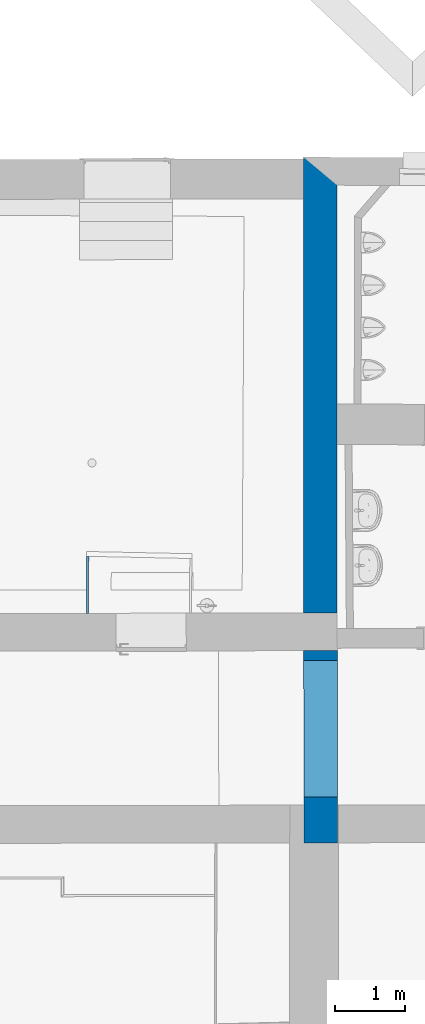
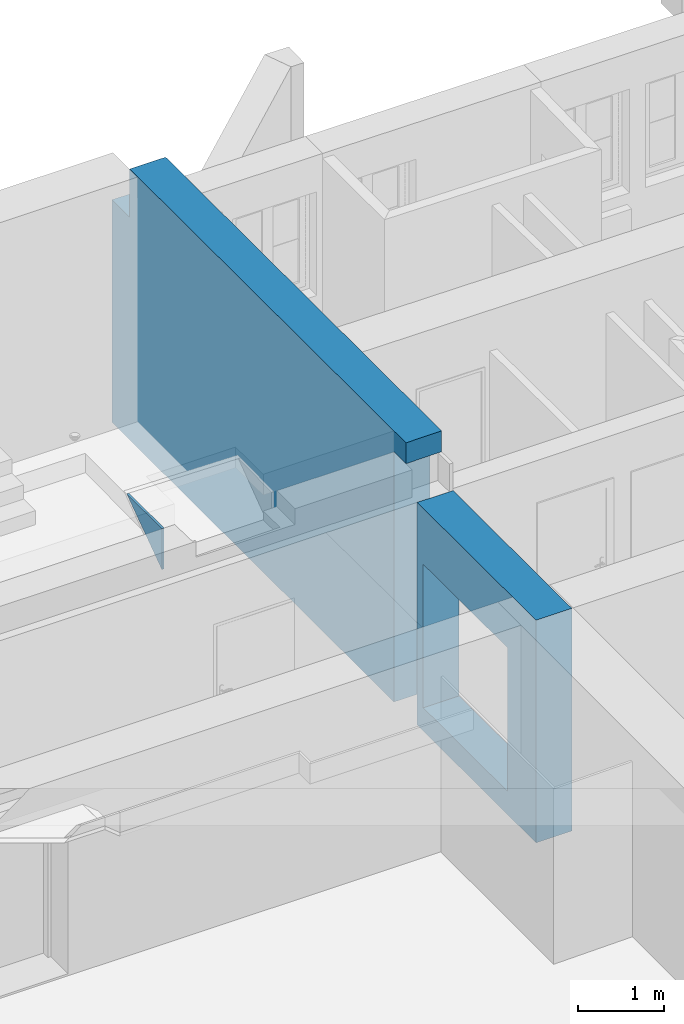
# One storey, part 98 of 196: 3 walls, 1 opening.
"""IFC2X3 building model written with IfcOpenShell, lengths in metres."""

from ifc_helpers import new_model, entity, si_unit, converted_unit, derived_unit, money_unit, direction, frame, origin_with_axes, origin_2d_with_axis, place, context, subcontext, project, spatial, polyline, rectangle, outline, extrude, boolean, faceted_brep, material, type_object, element, save


model = new_model("IFC2X3")

# Units and contexts
model_context = context("Model", 3, precision=1e-05, world=origin_with_axes(), true_north=direction((0.0, 1.0)))
body_context = subcontext(model_context, "Body", "Model", "MODEL_VIEW")
ifc_project = project(units=[si_unit("LENGTHUNIT", "METRE"), si_unit("AREAUNIT", "SQUARE_METRE"), si_unit("VOLUMEUNIT", "CUBIC_METRE"), converted_unit("PLANEANGLEUNIT", "DEGREE", entity("IfcPlaneAngleMeasure", 0.0174532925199), si_unit("PLANEANGLEUNIT", "RADIAN"), dimensions=[0, 0, 0, 0, 0, 0, 0]), money_unit("EUR"), converted_unit("TIMEUNIT", "Year", entity("IfcTimeMeasure", 31556926.0), si_unit("TIMEUNIT", "SECOND"), dimensions=[0, 0, 1, 0, 0, 0, 0]), si_unit("MASSUNIT", "GRAM", prefix="KILO"), si_unit("THERMODYNAMICTEMPERATUREUNIT", "DEGREE_CELSIUS"), si_unit("LUMINOUSINTENSITYUNIT", "LUMEN"), si_unit("ENERGYUNIT", "JOULE", prefix="MEGA"), derived_unit("THERMALCONDUCTANCEUNIT", [(si_unit("POWERUNIT", "WATT"), 1), (si_unit("LENGTHUNIT", "METRE"), -1), (si_unit("THERMODYNAMICTEMPERATUREUNIT", "KELVIN"), -1)]), derived_unit("SPECIFICHEATCAPACITYUNIT", [(si_unit("ENERGYUNIT", "JOULE"), 1), (si_unit("MASSUNIT", "GRAM", prefix="KILO"), -1), (si_unit("THERMODYNAMICTEMPERATUREUNIT", "KELVIN"), -1)]), derived_unit("MASSDENSITYUNIT", [(si_unit("MASSUNIT", "GRAM", prefix="KILO"), 1), (si_unit("VOLUMEUNIT", "CUBIC_METRE"), -1)])], contexts=[model_context])

# Site, building, storey
site_placement = place(None, origin_with_axes())
site = spatial("IfcSite", under=ifc_project, at=site_placement, Name="Gelände", CompositionType="ELEMENT")
building_placement = place(site_placement, origin_with_axes())
building = spatial("IfcBuilding", under=site, at=building_placement, Name="Gebäude", CompositionType="ELEMENT")
storey_placement = place(building_placement, frame((0.0, 0.0, -3.0), z_axis=(0.0, 0.0, 1.0), x_axis=(1.0, 0.0, 0.0)))
storey = spatial("IfcBuildingStorey", under=building, at=storey_placement, Name="KELLERGESCHOSS", CompositionType="ELEMENT", Elevation=-3.0)

# Walls
ifc_material_1 = material(Name="43_Gipskarton")
wall_type_1 = type_object("IfcWallType", Name="43_Gipskarton 30", PredefinedType="ELEMENTEDWALL")
wall_1_placement = place(storey_placement, frame((9.43932591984, 19.1629090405, 2.57478593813), z_axis=(0.0, 0.0, 1.0), x_axis=(0.00134877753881, 0.999999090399, 0.0)))
element("IfcWall", 1, at=wall_1_placement, inside=storey, type_object=wall_type_1, material=ifc_material_1, Name="Wand-067", ObjectType="ELEMENTEDWALL", context=body_context, shape_type="CSG", body=[
    boolean("DIFFERENCE", extrude(outline(polyline([(0.0, -0.03), (1.35254094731, -0.03), (1.35254094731, 0.0), (0.0, 0.0), (0.0, -0.03)])), origin_with_axes(), (0.0, 0.0, 1.0), 0.605214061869), faceted_brep([(1.35254094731, 0.0, 0.604791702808), (1.35254094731, -0.03, 0.605214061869), (1.35254094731, -0.03, 0.0), (1.35254094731, 0.0, 0.0), (0.537903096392, -0.03, 0.0263298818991), (0.537844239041, 0.0, 0.0258656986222), (0.537903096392, -0.03, 0.605214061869), (0.0, -0.03, 0.605214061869), (0.0, -0.03, 0.0), (0.0, 0.0, 0.0), (0.0, 0.0, 0.605214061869), (0.537844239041, 0.0, 0.605214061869)], [[[0, 1, 2, 3]], [[4, 1, 0, 5]], [[4, 6, 7, 8, 2, 1]], [[2, 8, 9, 3]], [[5, 0, 3, 9, 10, 11]], [[11, 6, 4, 5]], [[6, 11, 10, 7]], [[10, 9, 8, 7]]])),
])
ifc_material_2 = material(Name="05_ALLGEMEIN - TRAGENDE BAUTEILE")
wall_type_2 = type_object("IfcWallType", Name="05_ALLGEMEIN - TRAGENDE BAUTEILE 480", PredefinedType="ELEMENTEDWALL")
wall_2_placement = place(storey_placement, frame((12.541944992, 26.2295082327, -0.36), z_axis=(0.0, 0.0, 1.0), x_axis=(0.000847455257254, -0.99999964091, 0.0)))
element("IfcWall", 2, at=wall_2_placement, inside=storey, type_object=wall_type_2, material=ifc_material_2, Name="Wand-038", ObjectType="ELEMENTEDWALL", context=body_context, shape_type="CSG", body=[
    boolean("DIFFERENCE", boolean("DIFFERENCE", extrude(outline(polyline([(0.0, 0.0), (7.06480822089, 0.0), (7.06480822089, 0.48), (0.0, 0.48), (0.0, 0.0)])), origin_with_axes(), (0.0, 0.0, 1.0), 3.835), faceted_brep([(0.410004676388, 0.0, 3.835), (0.412297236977, 0.48, 3.835), (0.0, 0.48, 3.835), (0.0, 0.0, 3.835), (0.412297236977, 0.48, 3.14999999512), (0.410004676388, 0.0, 3.14999999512), (0.0022925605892, 0.48, 3.14999999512), (0.00229256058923, 0.48, 0.0), (0.0, 0.48, 0.0), (0.0, 0.0, 0.0), (0.0, 0.0, 3.14999999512)], [[[0, 1, 2, 3]], [[4, 1, 0, 5]], [[6, 7, 8, 2, 1, 4]], [[9, 10, 3, 2, 8]], [[5, 0, 3, 10]], [[6, 4, 5, 10]], [[7, 6, 10, 9]], [[7, 9, 8]]])), faceted_brep([(6.52696500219, 0.48, 3.54), (6.80090941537, 0.48, 3.54), (6.80090941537, 0.48, 3.835), (7.06480822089, 0.48, 3.835), (7.06480822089, 0.48, 0.0), (6.52696500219, 0.48, 0.0), (6.52685252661, 0.0, 3.54), (6.80487011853, 0.0, 3.54), (6.80132271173, 0.42991236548, 3.54), (6.80132271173, 0.42991236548, 3.835), (6.80487011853, 0.0, 3.835), (7.06480822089, 0.0, 3.835), (7.06480822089, 0.0, 0.0), (6.52685252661, 0.0, 0.0)], [[[0, 1, 2, 3, 4, 5]], [[1, 0, 6, 7, 8]], [[9, 2, 1, 8]], [[9, 10, 11, 3, 2]], [[11, 12, 4, 3]], [[13, 5, 4, 12]], [[0, 5, 13, 6]], [[6, 13, 12, 11, 10, 7]], [[10, 9, 8, 7]]])),
])

# Wall, opening
wall_3_placement = place(storey_placement, frame((12.5479320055, 19.1648150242, -0.36), z_axis=(0.0, 0.0, 1.0), x_axis=(0.000847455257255, -0.99999964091, 0.0)))
wall_3 = element("IfcWall", 3, at=wall_3_placement, inside=storey, type_object=wall_type_2, material=ifc_material_2, Name="Wand-038", ObjectType="ELEMENTEDWALL", context=body_context, shape_type="CSG", body=[
    boolean("DIFFERENCE", boolean("DIFFERENCE", extrude(outline(polyline([(-0.537843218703, 0.0), (2.75010788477, 0.0), (2.75010788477, 0.48), (-0.537843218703, 0.48), (-0.537843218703, 0.0)])), origin_with_axes(), (0.0, 0.0, 1.0), 3.15), faceted_brep([(0.0, 0.0, 3.15), (0.000112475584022, 0.48, 3.15), (-0.537843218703, 0.48, 3.15), (-0.537843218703, 0.0, 3.15), (0.000112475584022, 0.48, 0.0), (0.0, 0.0, 0.0), (-0.537843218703, 0.48, 0.0), (-0.537843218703, 0.0, 0.0)], [[[0, 1, 2, 3]], [[4, 1, 0, 5]], [[1, 4, 6, 2]], [[2, 6, 7, 3]], [[5, 0, 3, 7]], [[4, 5, 7, 6]]])), faceted_brep([(2.74973852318, 0.48, 0.0), (2.74973852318, 0.48, 3.15), (2.75010788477, 0.48, 3.15), (2.75010788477, 0.48, 0.0), (2.75010788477, 0.0, 3.15), (2.75010788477, 0.0, 0.0)], [[[0, 1, 2, 3]], [[4, 1, 0, 5]], [[1, 4, 2]], [[4, 5, 3, 2]], [[5, 0, 3]]])),
])
opening_placement = place(wall_3_placement, frame((1.1155499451, 0.0, 0.328813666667), z_axis=(0.0, 0.0, 1.0), x_axis=(1.0, 0.0, 0.0)))
element("IfcOpeningElement", 4, at=opening_placement, cuts=wall_3, Name="Tür-022", context=body_context, shape_type="SweptSolid", body=[
    extrude(rectangle(XDim=1.95275557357, YDim=2.030729, at=origin_2d_with_axis()), frame((0.0, 0.48, 1.0153645), z_axis=(0.0, -1.0, 0.0), x_axis=(1.0, 0.0, 0.0)), (0.0, 0.0, 1.0), 1.44),
])

save(model, "model.ifc")
